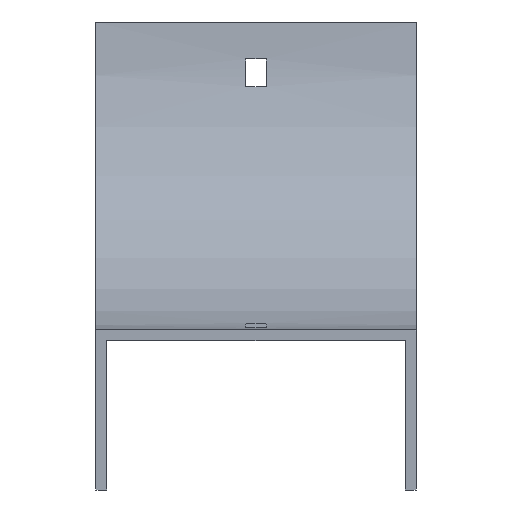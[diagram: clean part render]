
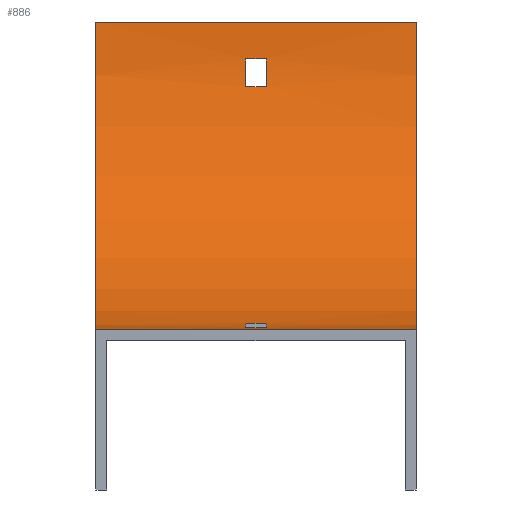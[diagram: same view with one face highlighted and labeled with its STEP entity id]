
A CAD part, front view. The second image highlights one B-rep face of the part: STEP entity #886.
In plain terms, the highlighted cylindrical face has radius 100 mm (diameter 200 mm), a partial arc.
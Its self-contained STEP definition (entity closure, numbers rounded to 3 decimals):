
#5 = DIRECTION ( 'NONE',  ( -1., 0., 0. ) ) ;
#41 = VERTEX_POINT ( 'NONE', #160 ) ;
#57 = CARTESIAN_POINT ( 'NONE',  ( 3.25, -100., 0. ) ) ;
#63 = EDGE_CURVE ( 'NONE', #41, #740, #326, .T. ) ;
#70 = DIRECTION ( 'NONE',  ( 0., 0., 1. ) ) ;
#71 = CARTESIAN_POINT ( 'NONE',  ( 52., -100., 0. ) ) ;
#79 = CARTESIAN_POINT ( 'NONE',  ( 3.25, -2.23, -21. ) ) ;
#100 = CARTESIAN_POINT ( 'NONE',  ( -52., 0., 0. ) ) ;
#112 = EDGE_CURVE ( 'NONE', #1064, #246, #944, .T. ) ;
#132 = DIRECTION ( 'NONE',  ( -1., 0., 0. ) ) ;
#145 = VERTEX_POINT ( 'NONE', #100 ) ;
#146 = EDGE_CURVE ( 'NONE', #502, #261, #197, .T. ) ;
#158 = DIRECTION ( 'NONE',  ( -1., 0., 0. ) ) ;
#160 = CARTESIAN_POINT ( 'NONE',  ( -3.25, -0.723, -12. ) ) ;
#171 = CARTESIAN_POINT ( 'NONE',  ( -52., -100., -100. ) ) ;
#180 = CIRCLE ( 'NONE', #320, 100. ) ;
#197 = LINE ( 'NONE', #621, #262 ) ;
#236 = DIRECTION ( 'NONE',  ( 0., 0., 1. ) ) ;
#246 = VERTEX_POINT ( 'NONE', #812 ) ;
#261 = VERTEX_POINT ( 'NONE', #461 ) ;
#262 = VECTOR ( 'NONE', #1085, 1000. ) ;
#274 = CIRCLE ( 'NONE', #428, 100. ) ;
#278 = ORIENTED_EDGE ( 'NONE', *, *, #63, .T. ) ;
#283 = VECTOR ( 'NONE', #158, 1000. ) ;
#291 = ORIENTED_EDGE ( 'NONE', *, *, #146, .F. ) ;
#305 = EDGE_CURVE ( 'NONE', #145, #973, #180, .T. ) ;
#317 = CARTESIAN_POINT ( 'NONE',  ( 52., 0., 0. ) ) ;
#319 = DIRECTION ( 'NONE',  ( 1., 0., 0. ) ) ;
#320 = AXIS2_PLACEMENT_3D ( 'NONE', #396, #132, #483 ) ;
#325 = FACE_BOUND ( 'NONE', #1115, .T. ) ;
#326 = LINE ( 'NONE', #961, #982 ) ;
#332 = FACE_OUTER_BOUND ( 'NONE', #397, .T. ) ;
#358 = CARTESIAN_POINT ( 'NONE',  ( -3.25, -100., 0. ) ) ;
#367 = CIRCLE ( 'NONE', #711, 100. ) ;
#384 = CARTESIAN_POINT ( 'NONE',  ( 3.25, -0.723, -12. ) ) ;
#394 = DIRECTION ( 'NONE',  ( -1., 0., 0. ) ) ;
#396 = CARTESIAN_POINT ( 'NONE',  ( -52., -100., 0. ) ) ;
#397 = EDGE_LOOP ( 'NONE', ( #1094, #815, #754, #861 ) ) ;
#399 = DIRECTION ( 'NONE',  ( 1., 0., 0. ) ) ;
#406 = DIRECTION ( 'NONE',  ( 0., 0., -1. ) ) ;
#408 = AXIS2_PLACEMENT_3D ( 'NONE', #500, #1031, #406 ) ;
#419 = LINE ( 'NONE', #842, #1132 ) ;
#428 = AXIS2_PLACEMENT_3D ( 'NONE', #358, #5, #1100 ) ;
#433 = VERTEX_POINT ( 'NONE', #79 ) ;
#451 = EDGE_CURVE ( 'NONE', #246, #973, #1037, .T. ) ;
#461 = CARTESIAN_POINT ( 'NONE',  ( -3.25, -79., -97.77 ) ) ;
#462 = AXIS2_PLACEMENT_3D ( 'NONE', #644, #469, #673 ) ;
#469 = DIRECTION ( 'NONE',  ( 1., 0., 0. ) ) ;
#474 = CARTESIAN_POINT ( 'NONE',  ( -3.25, -2.23, -21. ) ) ;
#483 = DIRECTION ( 'NONE',  ( 0., 0., 1. ) ) ;
#491 = ORIENTED_EDGE ( 'NONE', *, *, #1062, .F. ) ;
#500 = CARTESIAN_POINT ( 'NONE',  ( 3.25, -100., 0. ) ) ;
#502 = VERTEX_POINT ( 'NONE', #1054 ) ;
#509 = DIRECTION ( 'NONE',  ( -1., 0., 0. ) ) ;
#532 = ORIENTED_EDGE ( 'NONE', *, *, #1112, .T. ) ;
#539 = EDGE_CURVE ( 'NONE', #1064, #145, #1126, .T. ) ;
#541 = CARTESIAN_POINT ( 'NONE',  ( 3.25, -88., -99.277 ) ) ;
#543 = CARTESIAN_POINT ( 'NONE',  ( 52., 0., 0. ) ) ;
#596 = DIRECTION ( 'NONE',  ( -1., 0., 0. ) ) ;
#604 = LINE ( 'NONE', #760, #682 ) ;
#621 = CARTESIAN_POINT ( 'NONE',  ( 52., -79., -97.77 ) ) ;
#622 = VERTEX_POINT ( 'NONE', #541 ) ;
#644 = CARTESIAN_POINT ( 'NONE',  ( -3.25, -100., 0. ) ) ;
#673 = DIRECTION ( 'NONE',  ( 0., 0., 1. ) ) ;
#682 = VECTOR ( 'NONE', #1125, 1000. ) ;
#685 = ORIENTED_EDGE ( 'NONE', *, *, #796, .F. ) ;
#711 = AXIS2_PLACEMENT_3D ( 'NONE', #57, #399, #926 ) ;
#734 = VERTEX_POINT ( 'NONE', #474 ) ;
#740 = VERTEX_POINT ( 'NONE', #384 ) ;
#748 = ORIENTED_EDGE ( 'NONE', *, *, #847, .T. ) ;
#753 = ORIENTED_EDGE ( 'NONE', *, *, #1110, .F. ) ;
#754 = ORIENTED_EDGE ( 'NONE', *, *, #112, .F. ) ;
#760 = CARTESIAN_POINT ( 'NONE',  ( 52., -88., -99.277 ) ) ;
#785 = CARTESIAN_POINT ( 'NONE',  ( 52., -100., 0. ) ) ;
#796 = EDGE_CURVE ( 'NONE', #622, #502, #367, .T. ) ;
#812 = CARTESIAN_POINT ( 'NONE',  ( 52., -100., -100. ) ) ;
#815 = ORIENTED_EDGE ( 'NONE', *, *, #451, .F. ) ;
#831 = EDGE_CURVE ( 'NONE', #734, #41, #914, .T. ) ;
#842 = CARTESIAN_POINT ( 'NONE',  ( 52., -2.23, -21. ) ) ;
#847 = EDGE_CURVE ( 'NONE', #740, #433, #1120, .T. ) ;
#861 = ORIENTED_EDGE ( 'NONE', *, *, #539, .T. ) ;
#862 = CARTESIAN_POINT ( 'NONE',  ( -3.25, -88., -99.277 ) ) ;
#865 = FACE_BOUND ( 'NONE', #915, .T. ) ;
#870 = CYLINDRICAL_SURFACE ( 'NONE', #1025, 100. ) ;
#881 = CARTESIAN_POINT ( 'NONE',  ( 52., -100., -100. ) ) ;
#886 = ADVANCED_FACE ( 'NONE', ( #332, #865, #325 ), #870, .F. ) ;
#914 = CIRCLE ( 'NONE', #462, 100. ) ;
#915 = EDGE_LOOP ( 'NONE', ( #532, #1013, #278, #748 ) ) ;
#926 = DIRECTION ( 'NONE',  ( 0., -1., 0. ) ) ;
#944 = CIRCLE ( 'NONE', #1093, 100. ) ;
#946 = VECTOR ( 'NONE', #596, 1000. ) ;
#961 = CARTESIAN_POINT ( 'NONE',  ( 52., -0.723, -12. ) ) ;
#973 = VERTEX_POINT ( 'NONE', #171 ) ;
#982 = VECTOR ( 'NONE', #319, 1000. ) ;
#1013 = ORIENTED_EDGE ( 'NONE', *, *, #831, .T. ) ;
#1025 = AXIS2_PLACEMENT_3D ( 'NONE', #785, #509, #70 ) ;
#1031 = DIRECTION ( 'NONE',  ( -1., 0., 0. ) ) ;
#1037 = LINE ( 'NONE', #881, #283 ) ;
#1040 = DIRECTION ( 'NONE',  ( -1., 0., 0. ) ) ;
#1054 = CARTESIAN_POINT ( 'NONE',  ( 3.25, -79., -97.77 ) ) ;
#1062 = EDGE_CURVE ( 'NONE', #261, #1131, #274, .T. ) ;
#1064 = VERTEX_POINT ( 'NONE', #543 ) ;
#1085 = DIRECTION ( 'NONE',  ( -1., 0., 0. ) ) ;
#1093 = AXIS2_PLACEMENT_3D ( 'NONE', #71, #1040, #236 ) ;
#1094 = ORIENTED_EDGE ( 'NONE', *, *, #305, .T. ) ;
#1100 = DIRECTION ( 'NONE',  ( 0., 1., 0. ) ) ;
#1110 = EDGE_CURVE ( 'NONE', #1131, #622, #604, .T. ) ;
#1112 = EDGE_CURVE ( 'NONE', #433, #734, #419, .T. ) ;
#1115 = EDGE_LOOP ( 'NONE', ( #491, #291, #685, #753 ) ) ;
#1120 = CIRCLE ( 'NONE', #408, 100. ) ;
#1125 = DIRECTION ( 'NONE',  ( 1., 0., 0. ) ) ;
#1126 = LINE ( 'NONE', #317, #946 ) ;
#1131 = VERTEX_POINT ( 'NONE', #862 ) ;
#1132 = VECTOR ( 'NONE', #394, 1000. ) ;
